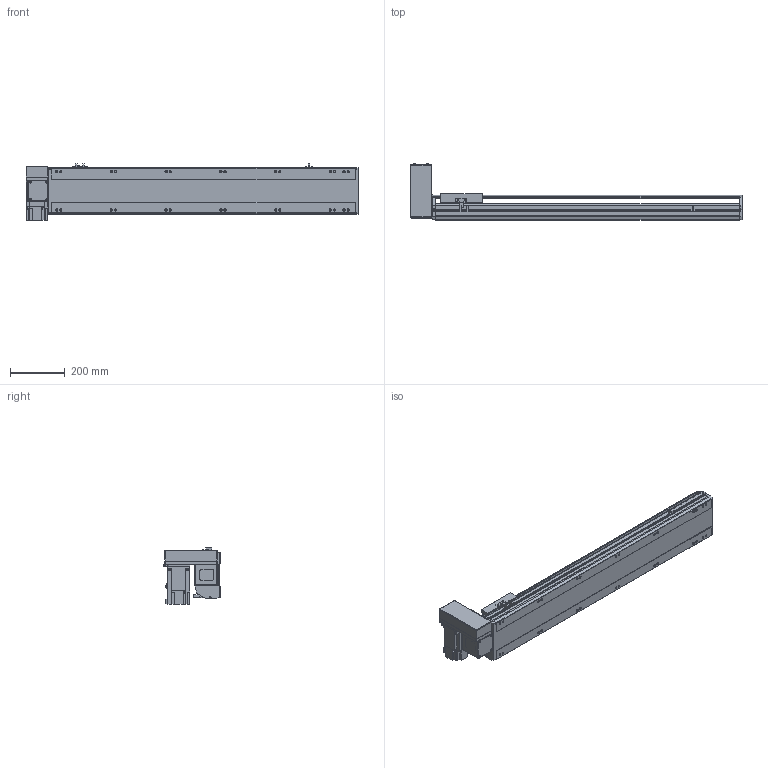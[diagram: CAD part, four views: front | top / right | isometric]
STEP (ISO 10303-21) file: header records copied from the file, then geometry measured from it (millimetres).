
FILE_DESCRIPTION( ( 'STEP AP214' ), '1' );
FILE_NAME( 'x:/temp/worker_5/temp/exporttempdir_3988_116_VlDUF/format_0/PBS170-P40-S850-RU-T75-C1-N(0).stp', '2022-06-08T05:56:40', ( 'License CC BY-ND 4.0' ), ( 'CADENAS' ), ' ', 'PARTsolutions', ' ' );
FILE_SCHEMA( ( 'AUTOMOTIVE_DESIGN { 1 0 10303 214 1 1 1 1 }' ) );
Length unit declared in the file: millimetre
Products named in the file (7): PBS170-P40-S850-RU-T75-C1-N(0); _PBS170-S850()_body; _PBS170T-RU_motors; _T75-p1; _PBS170_sliser; _PBS170_plant; _PBS170_sensor
Assembly tree (8 placements, depth 2):
  PBS170-P40-S850-RU-T75-C1-N(0)
    _PBS170-S850()_body
    _PBS170T-RU_motors
    _T75-p1
    _PBS170_sliser
    _PBS170_plant
    _PBS170_sensor  x3
Bounding box: 1213 x 206 x 205.3 mm (x, y, z)
Volume: 9918887.6 mm3; surface area: 1312294.1 mm2
Topology: 8 solids, 8 shells, 1066 faces, 2835 edges, 1848 vertices
Faces by surface type: plane 681, cylinder 331, cone 44, sphere 8, torus 2
Full cylindrical faces by diameter (mm): 3.242 x4, 4 x2, 4.4 x4, 4.5 x6, 4.917 x4, 6 x9, 6.647 x22, 7 x2, 7.5 x4, 8 x8, 8.5 x14, 10 x4, 10.5 x14, 11 x2, 30 x2, 40 x1, 70 x1
Entity records: 39098 total; most frequent: CARTESIAN_POINT 6053, DIRECTION 5230, ORIENTED_EDGE 4968, EDGE_CURVE 2484, AXIS2_PLACEMENT_3D 1807, VERTEX_POINT 1706, LINE 1616, VECTOR 1616
